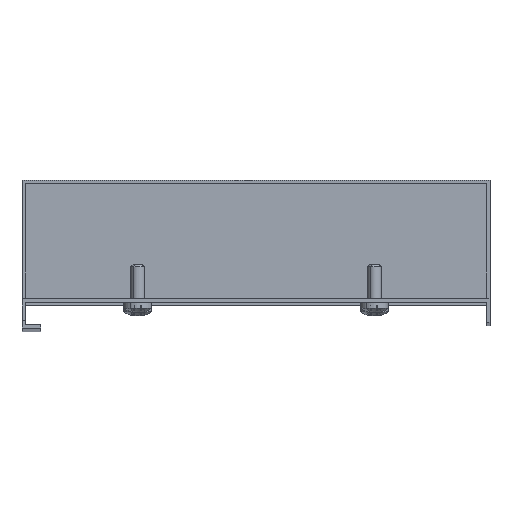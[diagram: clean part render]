
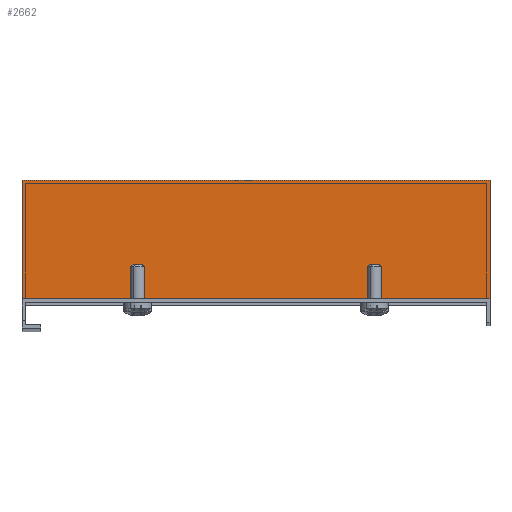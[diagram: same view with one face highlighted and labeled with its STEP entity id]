
A CAD part, top view. The second image highlights one B-rep face of the part: STEP entity #2662.
In plain terms, the highlighted planar face has unit normal (0, 0, 1).
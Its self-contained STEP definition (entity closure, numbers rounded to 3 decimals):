
#29 = ORIENTED_EDGE ( 'NONE', *, *, #912, .F. ) ;
#122 = VECTOR ( 'NONE', #2919, 1000. ) ;
#236 = CARTESIAN_POINT ( 'NONE',  ( 190., 62.5, 855.4 ) ) ;
#284 = VERTEX_POINT ( 'NONE', #2438 ) ;
#286 = DIRECTION ( 'NONE',  ( 0., -1., 0. ) ) ;
#303 = DIRECTION ( 'NONE',  ( 1., 0., 0. ) ) ;
#448 = CARTESIAN_POINT ( 'NONE',  ( -8., 62.5, 855.4 ) ) ;
#727 = CARTESIAN_POINT ( 'NONE',  ( 190., 62.5, 855.4 ) ) ;
#771 = VERTEX_POINT ( 'NONE', #2064 ) ;
#842 = VERTEX_POINT ( 'NONE', #1700 ) ;
#912 = EDGE_CURVE ( 'NONE', #1821, #842, #1743, .T. ) ;
#1113 = FACE_OUTER_BOUND ( 'NONE', #1812, .T. ) ;
#1225 = EDGE_CURVE ( 'NONE', #284, #1821, #2192, .T. ) ;
#1524 = ORIENTED_EDGE ( 'NONE', *, *, #2753, .T. ) ;
#1548 = ORIENTED_EDGE ( 'NONE', *, *, #1833, .F. ) ;
#1700 = CARTESIAN_POINT ( 'NONE',  ( 190., 12.4, 855.4 ) ) ;
#1743 = LINE ( 'NONE', #727, #2280 ) ;
#1812 = EDGE_LOOP ( 'NONE', ( #1524, #29, #3023, #1548 ) ) ;
#1821 = VERTEX_POINT ( 'NONE', #236 ) ;
#1833 = EDGE_CURVE ( 'NONE', #771, #284, #2934, .T. ) ;
#1852 = CARTESIAN_POINT ( 'NONE',  ( 0., 0., 855.4 ) ) ;
#1921 = CARTESIAN_POINT ( 'NONE',  ( -8., 0., 855.4 ) ) ;
#2064 = CARTESIAN_POINT ( 'NONE',  ( -8., 12.4, 855.4 ) ) ;
#2192 = LINE ( 'NONE', #448, #2543 ) ;
#2223 = DIRECTION ( 'NONE',  ( 1., 0., 0. ) ) ;
#2280 = VECTOR ( 'NONE', #2489, 1000. ) ;
#2352 = PLANE ( 'NONE',  #2959 ) ;
#2438 = CARTESIAN_POINT ( 'NONE',  ( -8., 62.5, 855.4 ) ) ;
#2489 = DIRECTION ( 'NONE',  ( 0., -1., 0. ) ) ;
#2543 = VECTOR ( 'NONE', #2223, 1000. ) ;
#2597 = CARTESIAN_POINT ( 'NONE',  ( 0., 12.4, 855.4 ) ) ;
#2662 = ADVANCED_FACE ( 'NONE', ( #1113 ), #2352, .T. ) ;
#2753 = EDGE_CURVE ( 'NONE', #771, #842, #2788, .T. ) ;
#2788 = LINE ( 'NONE', #2597, #2810 ) ;
#2810 = VECTOR ( 'NONE', #303, 1000. ) ;
#2853 = DIRECTION ( 'NONE',  ( 0., 0., 1. ) ) ;
#2919 = DIRECTION ( 'NONE',  ( 0., 1., 0. ) ) ;
#2934 = LINE ( 'NONE', #1921, #122 ) ;
#2959 = AXIS2_PLACEMENT_3D ( 'NONE', #1852, #2853, #286 ) ;
#3023 = ORIENTED_EDGE ( 'NONE', *, *, #1225, .F. ) ;
